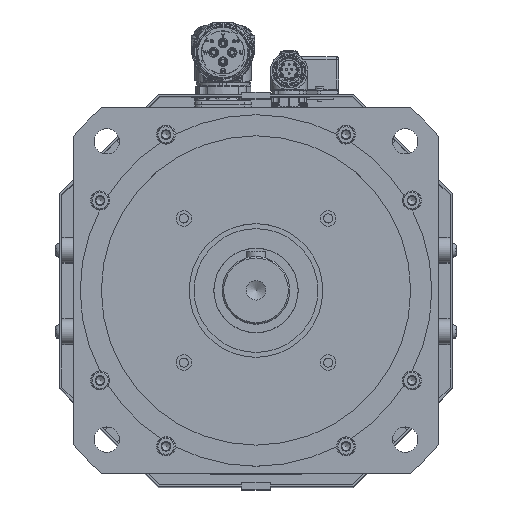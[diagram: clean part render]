
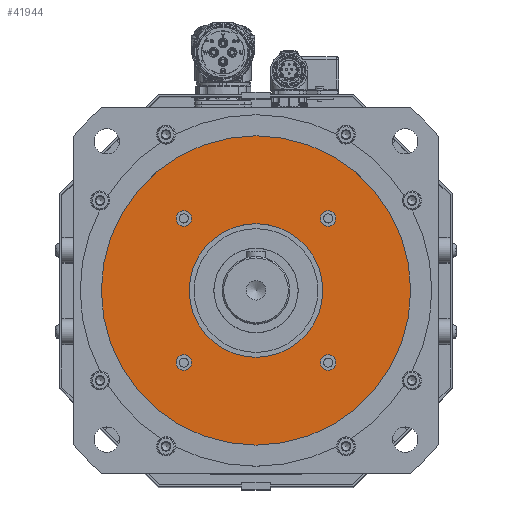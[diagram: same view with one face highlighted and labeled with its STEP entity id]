
A CAD part, top view. The second image highlights one B-rep face of the part: STEP entity #41944.
In plain terms, the highlighted planar face has unit normal (0, 0, 1).
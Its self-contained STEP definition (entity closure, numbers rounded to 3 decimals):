
#12425=FACE_BOUND('',#13633,.T.);
#12426=FACE_BOUND('',#13634,.T.);
#12427=FACE_BOUND('',#13635,.T.);
#12428=FACE_BOUND('',#13636,.T.);
#12429=FACE_BOUND('',#13637,.T.);
#12430=FACE_BOUND('',#13638,.T.);
#13633=EDGE_LOOP('',(#29318));
#13634=EDGE_LOOP('',(#29319));
#13635=EDGE_LOOP('',(#29320));
#13636=EDGE_LOOP('',(#29321));
#13637=EDGE_LOOP('',(#29322));
#13638=EDGE_LOOP('',(#29323));
#17249=CIRCLE('',#44719,5.5);
#17252=CIRCLE('',#44725,5.5);
#17255=CIRCLE('',#44731,5.5);
#17258=CIRCLE('',#44737,5.5);
#17318=CIRCLE('',#44843,47.5);
#17319=CIRCLE('',#44846,110.);
#19283=VERTEX_POINT('',#60974);
#19286=VERTEX_POINT('',#60983);
#19289=VERTEX_POINT('',#60992);
#19292=VERTEX_POINT('',#61001);
#19356=VERTEX_POINT('',#61198);
#19357=VERTEX_POINT('',#61202);
#23340=EDGE_CURVE('',#19283,#19283,#17249,.T.);
#23343=EDGE_CURVE('',#19286,#19286,#17252,.T.);
#23346=EDGE_CURVE('',#19289,#19289,#17255,.T.);
#23349=EDGE_CURVE('',#19292,#19292,#17258,.T.);
#23436=EDGE_CURVE('',#19356,#19356,#17318,.T.);
#23437=EDGE_CURVE('',#19357,#19357,#17319,.T.);
#29318=ORIENTED_EDGE('',*,*,#23340,.T.);
#29319=ORIENTED_EDGE('',*,*,#23343,.T.);
#29320=ORIENTED_EDGE('',*,*,#23346,.T.);
#29321=ORIENTED_EDGE('',*,*,#23349,.T.);
#29322=ORIENTED_EDGE('',*,*,#23436,.T.);
#29323=ORIENTED_EDGE('',*,*,#23437,.F.);
#40717=PLANE('',#44847);
#41944=ADVANCED_FACE('',(#12425,#12426,#12427,#12428,#12429,#12430),#40717,
 .T.);
#44719=AXIS2_PLACEMENT_3D('',#60975,#49391,#49392);
#44725=AXIS2_PLACEMENT_3D('',#60984,#49403,#49404);
#44731=AXIS2_PLACEMENT_3D('',#60993,#49415,#49416);
#44737=AXIS2_PLACEMENT_3D('',#61002,#49427,#49428);
#44843=AXIS2_PLACEMENT_3D('',#61199,#49666,#49667);
#44846=AXIS2_PLACEMENT_3D('',#61203,#49672,#49673);
#44847=AXIS2_PLACEMENT_3D('',#61204,#49674,#49675);
#49391=DIRECTION('center_axis',(0.,0.,-1.));
#49392=DIRECTION('ref_axis',(0.,-1.,0.));
#49403=DIRECTION('center_axis',(0.,0.,-1.));
#49404=DIRECTION('ref_axis',(-1.,0.,0.));
#49415=DIRECTION('center_axis',(0.,0.,-1.));
#49416=DIRECTION('ref_axis',(0.,1.,0.));
#49427=DIRECTION('center_axis',(0.,0.,-1.));
#49428=DIRECTION('ref_axis',(1.,0.,0.));
#49666=DIRECTION('center_axis',(0.,0.,-1.));
#49667=DIRECTION('ref_axis',(-1.,0.,0.));
#49672=DIRECTION('center_axis',(0.,0.,-1.));
#49673=DIRECTION('ref_axis',(-1.,0.,0.));
#49674=DIRECTION('center_axis',(0.,0.,1.));
#49675=DIRECTION('ref_axis',(1.,0.,0.));
#60974=CARTESIAN_POINT('',(51.265,45.765,47.));
#60975=CARTESIAN_POINT('Origin',(51.265,51.265,47.));
#60983=CARTESIAN_POINT('',(45.765,-51.265,47.));
#60984=CARTESIAN_POINT('Origin',(51.265,-51.265,47.));
#60992=CARTESIAN_POINT('',(-51.265,-45.765,47.));
#60993=CARTESIAN_POINT('Origin',(-51.265,-51.265,47.));
#61001=CARTESIAN_POINT('',(-45.765,51.265,47.));
#61002=CARTESIAN_POINT('Origin',(-51.265,51.265,47.));
#61198=CARTESIAN_POINT('',(47.5,0.,47.));
#61199=CARTESIAN_POINT('Origin',(0.,0.,47.));
#61202=CARTESIAN_POINT('',(110.,0.,47.));
#61203=CARTESIAN_POINT('Origin',(0.,0.,47.));
#61204=CARTESIAN_POINT('Origin',(0.,0.,47.));
